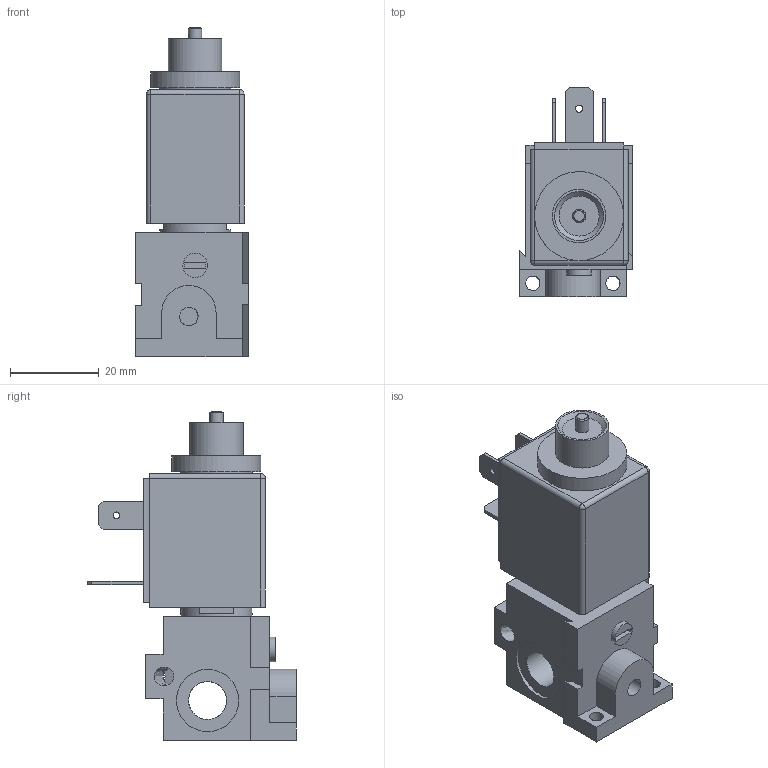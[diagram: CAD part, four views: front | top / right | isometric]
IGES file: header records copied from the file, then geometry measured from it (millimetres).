
Global section: file name: 355_M##-1; native system: Autodesk Inventor 2014; preprocessor: unknown; author: A. Manieri; date: 20161004.154129; units: millimetre
Bounding box: 25.4 x 47 x 74 mm (x, y, z)
Volume: 34779 mm3; surface area: 13388.6 mm2
Topology: 2 solids, 2 shells, 130 faces, 350 edges, 241 vertices
Faces by surface type: bspline 130
